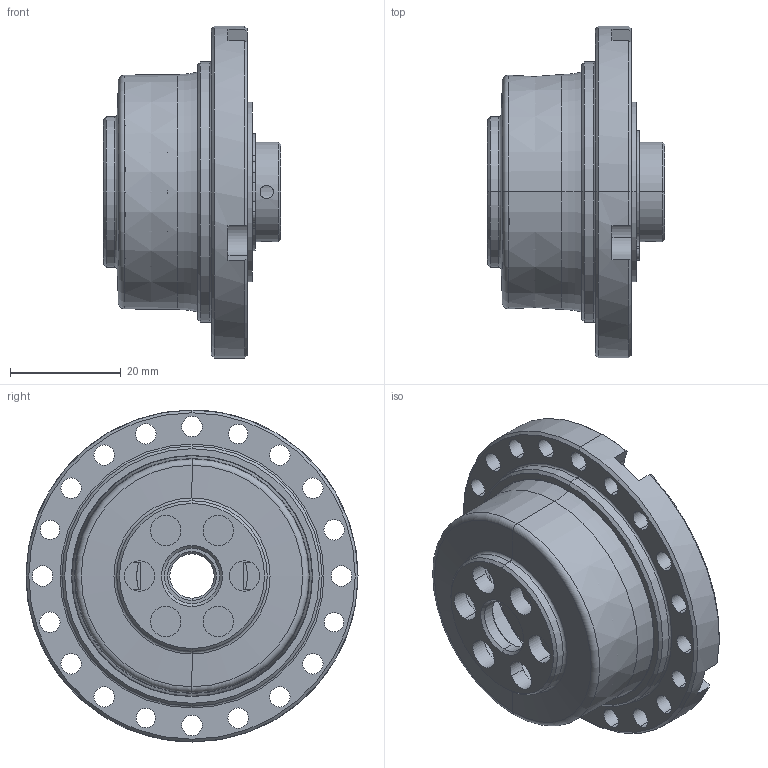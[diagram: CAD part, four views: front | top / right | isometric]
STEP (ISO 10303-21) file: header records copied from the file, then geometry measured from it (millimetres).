
FILE_DESCRIPTION (( 'STEP AP203' ), '1' );
FILE_NAME ('LCS-17-XXX-P-II.STEP', '2017-09-08T02:51:14', ( 'Windows 蚚誧' ), ( 'Users' ), 'SwSTEP 2.0', 'SolidWorks 2013', '' );
FILE_SCHEMA (( 'CONFIG_CONTROL_DESIGN' ));
Length unit declared in the file: millimetre
Products named in the file (12): LHS-17-XXX-P02; SZ-17-II; LCS-17-XXX-P-II; LHS-17-XXX-P03-II; DB-17-II; 粣噤18; RZC-17内外圈+钢球; RZC-17悵厥殤; 柔性轴承RZC-17; LCS-17-XXX-P01-II; 疏楷汜ん17-II; LJ-17-II
Assembly tree (11 placements, depth 4):
  LCS-17-XXX-P-II
    LCS-17-XXX-P01-II
    疏楷汜ん17-II
      LJ-17-II
      SZ-17-II
      LHS-17-XXX-P03-II
      DB-17-II
      粣噤18
      柔性轴承RZC-17
        RZC-17内外圈+钢球
        RZC-17悵厥殤
    LHS-17-XXX-P02
Bounding box: 32 x 60 x 60 mm (x, y, z)
Volume: 25200.3 mm3; surface area: 30788.4 mm2
Topology: 33 solids, 33 shells, 500 faces, 1322 edges, 848 vertices
Faces by surface type: cylinder 227, plane 154, sphere 46, torus 38, cone 35
Entity records: 16421 total; most frequent: DIRECTION 2919, CARTESIAN_POINT 2721, ORIENTED_EDGE 2414, AXIS2_PLACEMENT_3D 1231, EDGE_CURVE 1207, VERTEX_POINT 779, CIRCLE 715, EDGE_LOOP 584
